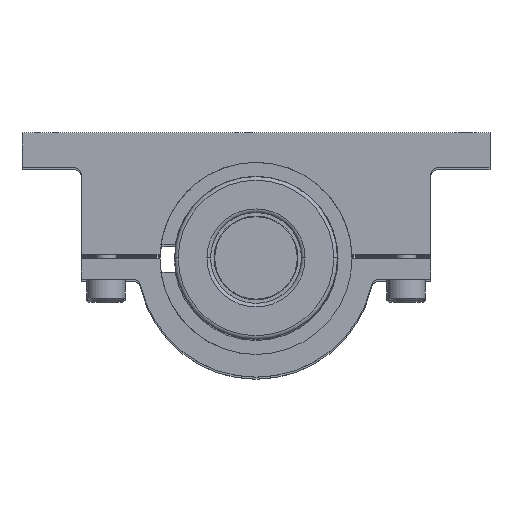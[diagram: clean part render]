
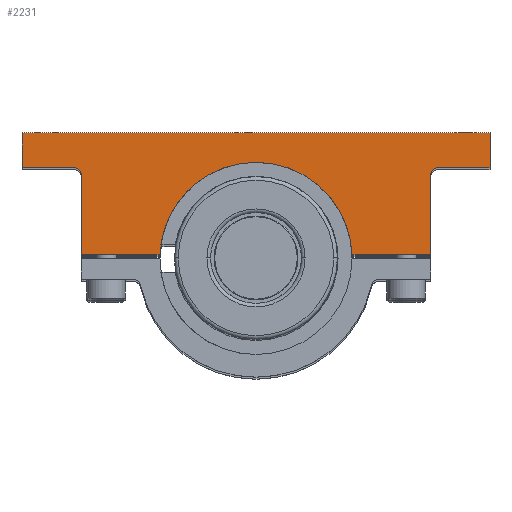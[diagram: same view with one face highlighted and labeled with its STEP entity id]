
A CAD part, top view. The second image highlights one B-rep face of the part: STEP entity #2231.
In plain terms, the highlighted planar face has unit normal (0, 0, 1).
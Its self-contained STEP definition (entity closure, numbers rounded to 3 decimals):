
#117 = AXIS2_PLACEMENT_3D ( 'NONE', #5711, #797, #3050 ) ;
#136 = LINE ( 'NONE', #2974, #7045 ) ;
#167 = CARTESIAN_POINT ( 'NONE',  ( 25., 0.5, 86.5 ) ) ;
#201 = CARTESIAN_POINT ( 'NONE',  ( -25., 0.5, 86.5 ) ) ;
#344 = CARTESIAN_POINT ( 'NONE',  ( -26., 12., 86.5 ) ) ;
#448 = EDGE_CURVE ( 'NONE', #5390, #5569, #6807, .T. ) ;
#538 = CARTESIAN_POINT ( 'NONE',  ( -25., 12., 86.5 ) ) ;
#602 = VERTEX_POINT ( 'NONE', #3663 ) ;
#616 = LINE ( 'NONE', #1565, #3630 ) ;
#636 = VERTEX_POINT ( 'NONE', #4804 ) ;
#650 = EDGE_CURVE ( 'NONE', #5569, #5920, #1854, .T. ) ;
#775 = CARTESIAN_POINT ( 'NONE',  ( -25., 0.5, 86.5 ) ) ;
#797 = DIRECTION ( 'NONE',  ( 0., 0., -1. ) ) ;
#803 = AXIS2_PLACEMENT_3D ( 'NONE', #2870, #2381, #3969 ) ;
#835 = ORIENTED_EDGE ( 'NONE', *, *, #2305, .T. ) ;
#921 = CARTESIAN_POINT ( 'NONE',  ( 33.5, 18., 86.5 ) ) ;
#931 = DIRECTION ( 'NONE',  ( 0., 0., -1. ) ) ;
#943 = VERTEX_POINT ( 'NONE', #538 ) ;
#955 = CARTESIAN_POINT ( 'NONE',  ( 33.5, 18., 86.5 ) ) ;
#1037 = EDGE_CURVE ( 'NONE', #7133, #602, #2413, .T. ) ;
#1059 = EDGE_CURVE ( 'NONE', #602, #5390, #7289, .T. ) ;
#1062 = LINE ( 'NONE', #201, #2901 ) ;
#1147 = EDGE_CURVE ( 'NONE', #6847, #7133, #136, .T. ) ;
#1363 = DIRECTION ( 'NONE',  ( 0., 1., 0. ) ) ;
#1565 = CARTESIAN_POINT ( 'NONE',  ( -25., 12., 86.5 ) ) ;
#1644 = ORIENTED_EDGE ( 'NONE', *, *, #5204, .T. ) ;
#1675 = CARTESIAN_POINT ( 'NONE',  ( 26., 13., 86.5 ) ) ;
#1706 = ORIENTED_EDGE ( 'NONE', *, *, #4928, .T. ) ;
#1741 = CARTESIAN_POINT ( 'NONE',  ( 25., 0.5, 86.5 ) ) ;
#1854 = LINE ( 'NONE', #4730, #4205 ) ;
#2004 = EDGE_CURVE ( 'NONE', #636, #3565, #3510, .T. ) ;
#2095 = DIRECTION ( 'NONE',  ( 0., 0., 1. ) ) ;
#2109 = EDGE_CURVE ( 'NONE', #3565, #2341, #3681, .T. ) ;
#2155 = DIRECTION ( 'NONE',  ( 0., -1., 0. ) ) ;
#2181 = ORIENTED_EDGE ( 'NONE', *, *, #2109, .T. ) ;
#2189 = ORIENTED_EDGE ( 'NONE', *, *, #6065, .T. ) ;
#2231 = ADVANCED_FACE ( 'NONE', ( #7149 ), #7230, .T. ) ;
#2305 = EDGE_CURVE ( 'NONE', #5995, #3119, #1062, .T. ) ;
#2341 = VERTEX_POINT ( 'NONE', #3977 ) ;
#2357 = VECTOR ( 'NONE', #2960, 1000. ) ;
#2381 = DIRECTION ( 'NONE',  ( 0., 0., -1. ) ) ;
#2413 = LINE ( 'NONE', #167, #2564 ) ;
#2424 = ORIENTED_EDGE ( 'NONE', *, *, #5566, .T. ) ;
#2460 = CIRCLE ( 'NONE', #3736, 1. ) ;
#2548 = ORIENTED_EDGE ( 'NONE', *, *, #1059, .T. ) ;
#2564 = VECTOR ( 'NONE', #6257, 1000. ) ;
#2848 = DIRECTION ( 'NONE',  ( 1., 0., 0. ) ) ;
#2870 = CARTESIAN_POINT ( 'NONE',  ( 26., 12., 86.5 ) ) ;
#2901 = VECTOR ( 'NONE', #2848, 1000. ) ;
#2960 = DIRECTION ( 'NONE',  ( 1., 0., 0. ) ) ;
#2974 = CARTESIAN_POINT ( 'NONE',  ( 13.741, 0.5, 86.5 ) ) ;
#2980 = ORIENTED_EDGE ( 'NONE', *, *, #650, .T. ) ;
#3050 = DIRECTION ( 'NONE',  ( -0.999, 0.036, 0. ) ) ;
#3058 = VECTOR ( 'NONE', #3950, 1000. ) ;
#3119 = VERTEX_POINT ( 'NONE', #4682 ) ;
#3297 = ORIENTED_EDGE ( 'NONE', *, *, #448, .T. ) ;
#3406 = CARTESIAN_POINT ( 'NONE',  ( -33.5, 18., 86.5 ) ) ;
#3510 = LINE ( 'NONE', #3406, #3058 ) ;
#3565 = VERTEX_POINT ( 'NONE', #6438 ) ;
#3630 = VECTOR ( 'NONE', #2155, 1000. ) ;
#3663 = CARTESIAN_POINT ( 'NONE',  ( 25., 12., 86.5 ) ) ;
#3681 = LINE ( 'NONE', #4159, #2357 ) ;
#3736 = AXIS2_PLACEMENT_3D ( 'NONE', #344, #931, #1363 ) ;
#3834 = CARTESIAN_POINT ( 'NONE',  ( 0., 18., 86.5 ) ) ;
#3838 = LINE ( 'NONE', #955, #5393 ) ;
#3950 = DIRECTION ( 'NONE',  ( 0., -1., 0. ) ) ;
#3969 = DIRECTION ( 'NONE',  ( -1., 0., 0. ) ) ;
#3977 = CARTESIAN_POINT ( 'NONE',  ( -26., 13., 86.5 ) ) ;
#4019 = EDGE_LOOP ( 'NONE', ( #835, #1706, #5241, #5636, #2548, #3297, #2980, #2189, #5906, #2181, #2424, #1644 ) ) ;
#4114 = CARTESIAN_POINT ( 'NONE',  ( 26., 13., 86.5 ) ) ;
#4159 = CARTESIAN_POINT ( 'NONE',  ( -33.5, 13., 86.5 ) ) ;
#4205 = VECTOR ( 'NONE', #5879, 1000. ) ;
#4214 = CARTESIAN_POINT ( 'NONE',  ( 13.741, 0.5, 86.5 ) ) ;
#4350 = DIRECTION ( 'NONE',  ( 1., 0., 0. ) ) ;
#4628 = DIRECTION ( 'NONE',  ( 1., 0., 0. ) ) ;
#4682 = CARTESIAN_POINT ( 'NONE',  ( -13.741, 0.5, 86.5 ) ) ;
#4730 = CARTESIAN_POINT ( 'NONE',  ( 33.5, 13., 86.5 ) ) ;
#4804 = CARTESIAN_POINT ( 'NONE',  ( -33.5, 18., 86.5 ) ) ;
#4843 = CARTESIAN_POINT ( 'NONE',  ( 33.5, 13., 86.5 ) ) ;
#4928 = EDGE_CURVE ( 'NONE', #3119, #6847, #5069, .T. ) ;
#5069 = CIRCLE ( 'NONE', #117, 13.75 ) ;
#5071 = AXIS2_PLACEMENT_3D ( 'NONE', #3834, #2095, #4350 ) ;
#5204 = EDGE_CURVE ( 'NONE', #943, #5995, #616, .T. ) ;
#5241 = ORIENTED_EDGE ( 'NONE', *, *, #1147, .T. ) ;
#5390 = VERTEX_POINT ( 'NONE', #4114 ) ;
#5393 = VECTOR ( 'NONE', #5607, 1000. ) ;
#5566 = EDGE_CURVE ( 'NONE', #2341, #943, #2460, .T. ) ;
#5569 = VERTEX_POINT ( 'NONE', #4843 ) ;
#5607 = DIRECTION ( 'NONE',  ( -1., 0., 0. ) ) ;
#5636 = ORIENTED_EDGE ( 'NONE', *, *, #1037, .T. ) ;
#5711 = CARTESIAN_POINT ( 'NONE',  ( 0., 0., 86.5 ) ) ;
#5879 = DIRECTION ( 'NONE',  ( 0., 1., 0. ) ) ;
#5906 = ORIENTED_EDGE ( 'NONE', *, *, #2004, .T. ) ;
#5920 = VERTEX_POINT ( 'NONE', #921 ) ;
#5995 = VERTEX_POINT ( 'NONE', #775 ) ;
#6065 = EDGE_CURVE ( 'NONE', #5920, #636, #3838, .T. ) ;
#6175 = DIRECTION ( 'NONE',  ( 1., 0., 0. ) ) ;
#6229 = VECTOR ( 'NONE', #6175, 1000. ) ;
#6257 = DIRECTION ( 'NONE',  ( 0., 1., 0. ) ) ;
#6438 = CARTESIAN_POINT ( 'NONE',  ( -33.5, 13., 86.5 ) ) ;
#6807 = LINE ( 'NONE', #1675, #6229 ) ;
#6847 = VERTEX_POINT ( 'NONE', #4214 ) ;
#7045 = VECTOR ( 'NONE', #4628, 1000. ) ;
#7133 = VERTEX_POINT ( 'NONE', #1741 ) ;
#7149 = FACE_OUTER_BOUND ( 'NONE', #4019, .T. ) ;
#7230 = PLANE ( 'NONE',  #5071 ) ;
#7289 = CIRCLE ( 'NONE', #803, 1. ) ;
